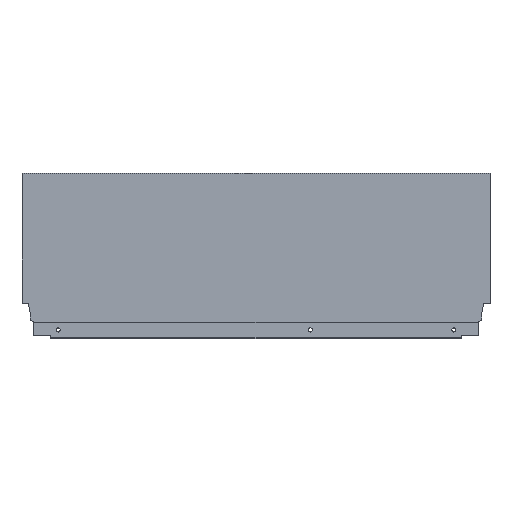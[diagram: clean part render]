
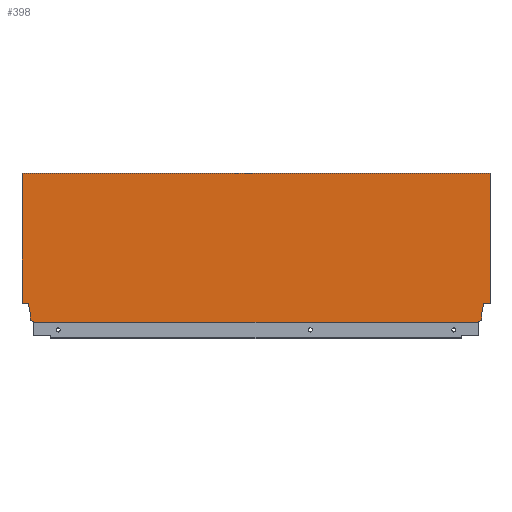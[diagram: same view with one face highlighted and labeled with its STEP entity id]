
A CAD part, top view. The second image highlights one B-rep face of the part: STEP entity #398.
In plain terms, the highlighted planar face has unit normal (0, 0, 1).
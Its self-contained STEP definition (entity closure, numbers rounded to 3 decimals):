
#30 = EDGE_CURVE ( 'NONE', #1061, #920, #1538, .T. ) ;
#33 = EDGE_CURVE ( 'NONE', #1061, #1068, #1531, .T. ) ;
#34 = EDGE_CURVE ( 'NONE', #1062, #898, #1533, .T. ) ;
#35 = EDGE_CURVE ( 'NONE', #901, #1062, #1535, .T. ) ;
#36 = EDGE_CURVE ( 'NONE', #1076, #901, #1534, .T. ) ;
#37 = EDGE_CURVE ( 'NONE', #920, #1076, #1528, .T. ) ;
#38 = EDGE_CURVE ( 'NONE', #903, #1068, #1526, .T. ) ;
#39 = EDGE_CURVE ( 'NONE', #1084, #898, #1518, .T. ) ;
#40 = EDGE_CURVE ( 'NONE', #1070, #903, #1516, .T. ) ;
#41 = EDGE_CURVE ( 'NONE', #899, #1070, #1524, .T. ) ;
#42 = EDGE_CURVE ( 'NONE', #1083, #906, #1522, .T. ) ;
#43 = EDGE_CURVE ( 'NONE', #1086, #899, #1520, .T. ) ;
#45 = EDGE_CURVE ( 'NONE', #906, #1086, #1510, .T. ) ;
#47 = EDGE_CURVE ( 'NONE', #1084, #1083, #1487, .T. ) ;
#277 = FACE_OUTER_BOUND ( 'NONE', #1165, .T. ) ;
#345 = AXIS2_PLACEMENT_3D ( 'NONE', #470, #504, #505 ) ;
#398 = ADVANCED_FACE ( 'NONE', ( #277 ), #474, .T. ) ;
#470 = CARTESIAN_POINT ( 'NONE',  ( -517., 0., 7.5 ) ) ;
#474 = PLANE ( 'NONE',  #345 ) ;
#504 = DIRECTION ( 'NONE',  ( 0., 0., 1. ) ) ;
#505 = DIRECTION ( 'NONE',  ( 1., 0., 0. ) ) ;
#630 = CARTESIAN_POINT ( 'NONE',  ( 0., 21.2, 7.5 ) ) ;
#631 = CARTESIAN_POINT ( 'NONE',  ( -8.9, 10.765, 7.5 ) ) ;
#632 = CARTESIAN_POINT ( 'NONE',  ( -508.1, 10.765, 7.5 ) ) ;
#633 = CARTESIAN_POINT ( 'NONE',  ( -13.004, 1.146, 7.5 ) ) ;
#635 = CARTESIAN_POINT ( 'NONE',  ( -517., 21.2, 7.5 ) ) ;
#650 = CARTESIAN_POINT ( 'NONE',  ( -503.996, 0., 7.5 ) ) ;
#651 = CARTESIAN_POINT ( 'NONE',  ( -509.94, 21.2, 7.5 ) ) ;
#663 = CARTESIAN_POINT ( 'NONE',  ( -503.996, 1.146, 7.5 ) ) ;
#665 = CARTESIAN_POINT ( 'NONE',  ( -13.004, 0., 7.5 ) ) ;
#669 = CARTESIAN_POINT ( 'NONE',  ( -517., 164.7, 7.5 ) ) ;
#671 = CARTESIAN_POINT ( 'NONE',  ( -7.06, 21.2, 7.5 ) ) ;
#673 = CARTESIAN_POINT ( 'NONE',  ( 0., 164.7, 7.5 ) ) ;
#674 = CARTESIAN_POINT ( 'NONE',  ( -508.1, 2.64, 7.5 ) ) ;
#682 = CARTESIAN_POINT ( 'NONE',  ( -8.9, 2.64, 7.5 ) ) ;
#892 = CARTESIAN_POINT ( 'NONE',  ( -517., 164.7, 7.5 ) ) ;
#893 = DIRECTION ( 'NONE',  ( -1., 0., 0. ) ) ;
#898 = VERTEX_POINT ( 'NONE', #635 ) ;
#899 = VERTEX_POINT ( 'NONE', #631 ) ;
#901 = VERTEX_POINT ( 'NONE', #632 ) ;
#903 = VERTEX_POINT ( 'NONE', #633 ) ;
#906 = VERTEX_POINT ( 'NONE', #630 ) ;
#913 = DIRECTION ( 'NONE',  ( -0.174, -0.985, 0. ) ) ;
#914 = CARTESIAN_POINT ( 'NONE',  ( 0., 21.2, 7.5 ) ) ;
#920 = VERTEX_POINT ( 'NONE', #663 ) ;
#984 = DIRECTION ( 'NONE',  ( 0., -1., 0. ) ) ;
#985 = CARTESIAN_POINT ( 'NONE',  ( -517., 0., 7.5 ) ) ;
#986 = DIRECTION ( 'NONE',  ( 0., -1., 0. ) ) ;
#988 = CARTESIAN_POINT ( 'NONE',  ( -522., 21.2, 7.5 ) ) ;
#992 = DIRECTION ( 'NONE',  ( 0., 1., 0. ) ) ;
#997 = CARTESIAN_POINT ( 'NONE',  ( -509.94, 21.2, 7.5 ) ) ;
#998 = DIRECTION ( 'NONE',  ( 1., 0., 0. ) ) ;
#999 = CARTESIAN_POINT ( 'NONE',  ( -517., 0., 7.5 ) ) ;
#1000 = CARTESIAN_POINT ( 'NONE',  ( -508.1, 2.64, 7.5 ) ) ;
#1001 = DIRECTION ( 'NONE',  ( -0.174, 0.985, 0. ) ) ;
#1002 = CARTESIAN_POINT ( 'NONE',  ( -508.1, 10.765, 7.5 ) ) ;
#1003 = DIRECTION ( 'NONE',  ( -1., 0., 0. ) ) ;
#1004 = CARTESIAN_POINT ( 'NONE',  ( -13.004, 1.146, 7.5 ) ) ;
#1005 = DIRECTION ( 'NONE',  ( 0., 1., 0. ) ) ;
#1006 = CARTESIAN_POINT ( 'NONE',  ( -8.9, 10.765, 7.5 ) ) ;
#1007 = DIRECTION ( 'NONE',  ( -0.94, 0.342, 0. ) ) ;
#1008 = DIRECTION ( 'NONE',  ( 1., 0., 0. ) ) ;
#1014 = DIRECTION ( 'NONE',  ( -0.94, -0.342, 0. ) ) ;
#1015 = CARTESIAN_POINT ( 'NONE',  ( -8.9, 2.64, 7.5 ) ) ;
#1016 = DIRECTION ( 'NONE',  ( 0., -1., 0. ) ) ;
#1017 = CARTESIAN_POINT ( 'NONE',  ( 0., 0., 7.5 ) ) ;
#1018 = CARTESIAN_POINT ( 'NONE',  ( -7.06, 21.2, 7.5 ) ) ;
#1019 = DIRECTION ( 'NONE',  ( 0., -1., 0. ) ) ;
#1028 = CARTESIAN_POINT ( 'NONE',  ( -503.996, 1.146, 7.5 ) ) ;
#1061 = VERTEX_POINT ( 'NONE', #650 ) ;
#1062 = VERTEX_POINT ( 'NONE', #651 ) ;
#1068 = VERTEX_POINT ( 'NONE', #665 ) ;
#1070 = VERTEX_POINT ( 'NONE', #682 ) ;
#1076 = VERTEX_POINT ( 'NONE', #674 ) ;
#1083 = VERTEX_POINT ( 'NONE', #673 ) ;
#1084 = VERTEX_POINT ( 'NONE', #669 ) ;
#1086 = VERTEX_POINT ( 'NONE', #671 ) ;
#1165 = EDGE_LOOP ( 'NONE', ( #1429, #1424, #1437, #1436, #1420, #1421, #1416, #1398, #1399, #1438, #1440, #1434, #1353, #1350 ) ) ;
#1350 = ORIENTED_EDGE ( 'NONE', *, *, #47, .F. ) ;
#1353 = ORIENTED_EDGE ( 'NONE', *, *, #42, .F. ) ;
#1398 = ORIENTED_EDGE ( 'NONE', *, *, #38, .F. ) ;
#1399 = ORIENTED_EDGE ( 'NONE', *, *, #40, .F. ) ;
#1416 = ORIENTED_EDGE ( 'NONE', *, *, #33, .T. ) ;
#1420 = ORIENTED_EDGE ( 'NONE', *, *, #37, .F. ) ;
#1421 = ORIENTED_EDGE ( 'NONE', *, *, #30, .F. ) ;
#1424 = ORIENTED_EDGE ( 'NONE', *, *, #34, .F. ) ;
#1429 = ORIENTED_EDGE ( 'NONE', *, *, #39, .T. ) ;
#1434 = ORIENTED_EDGE ( 'NONE', *, *, #45, .F. ) ;
#1436 = ORIENTED_EDGE ( 'NONE', *, *, #36, .F. ) ;
#1437 = ORIENTED_EDGE ( 'NONE', *, *, #35, .F. ) ;
#1438 = ORIENTED_EDGE ( 'NONE', *, *, #41, .F. ) ;
#1440 = ORIENTED_EDGE ( 'NONE', *, *, #43, .F. ) ;
#1482 = VECTOR ( 'NONE', #1008, 1000. ) ;
#1486 = VECTOR ( 'NONE', #893, 1000. ) ;
#1487 = LINE ( 'NONE', #892, #1482 ) ;
#1490 = VECTOR ( 'NONE', #913, 1000. ) ;
#1510 = LINE ( 'NONE', #914, #1486 ) ;
#1511 = VECTOR ( 'NONE', #1019, 1000. ) ;
#1514 = VECTOR ( 'NONE', #1016, 1000. ) ;
#1515 = VECTOR ( 'NONE', #1014, 1000. ) ;
#1516 = LINE ( 'NONE', #1015, #1515 ) ;
#1517 = VECTOR ( 'NONE', #984, 1000. ) ;
#1518 = LINE ( 'NONE', #985, #1517 ) ;
#1520 = LINE ( 'NONE', #1018, #1490 ) ;
#1521 = VECTOR ( 'NONE', #986, 1000. ) ;
#1522 = LINE ( 'NONE', #1017, #1511 ) ;
#1523 = VECTOR ( 'NONE', #1007, 1000. ) ;
#1524 = LINE ( 'NONE', #1006, #1514 ) ;
#1525 = VECTOR ( 'NONE', #1005, 1000. ) ;
#1526 = LINE ( 'NONE', #1004, #1521 ) ;
#1527 = VECTOR ( 'NONE', #1001, 1000. ) ;
#1528 = LINE ( 'NONE', #1000, #1523 ) ;
#1529 = VECTOR ( 'NONE', #1003, 1000. ) ;
#1530 = VECTOR ( 'NONE', #998, 1000. ) ;
#1531 = LINE ( 'NONE', #999, #1530 ) ;
#1533 = LINE ( 'NONE', #988, #1529 ) ;
#1534 = LINE ( 'NONE', #1002, #1525 ) ;
#1535 = LINE ( 'NONE', #997, #1527 ) ;
#1536 = VECTOR ( 'NONE', #992, 1000. ) ;
#1538 = LINE ( 'NONE', #1028, #1536 ) ;
